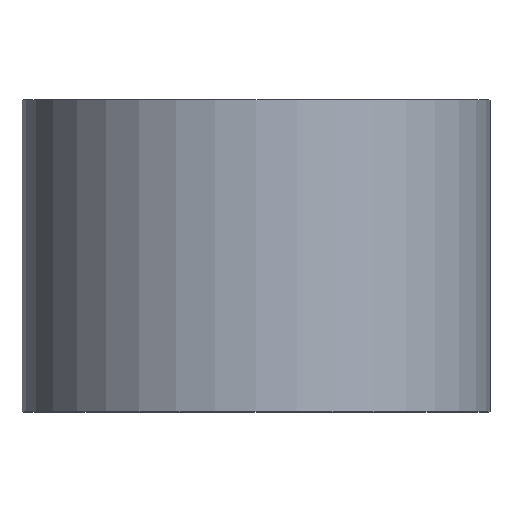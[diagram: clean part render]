
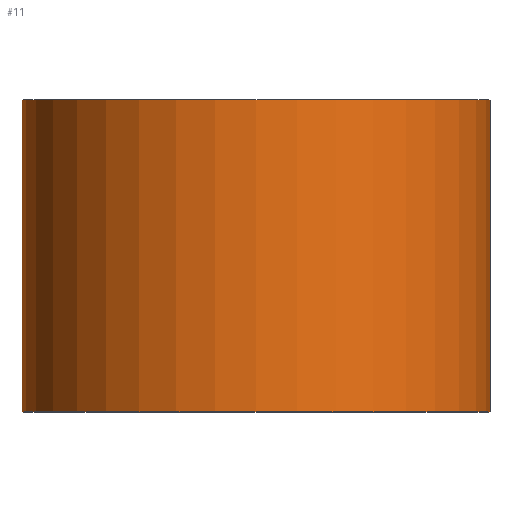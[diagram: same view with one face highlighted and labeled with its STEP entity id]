
A CAD part, top view. The second image highlights one B-rep face of the part: STEP entity #11.
In plain terms, the highlighted cylindrical face has radius 15 mm (diameter 30 mm), a partial arc.
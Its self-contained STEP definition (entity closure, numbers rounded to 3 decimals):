
#2 = CARTESIAN_POINT ( 'NONE',  ( 15., 0., 0. ) ) ;
#11 = ADVANCED_FACE ( 'NONE', ( #94 ), #269, .T. ) ;
#13 = CARTESIAN_POINT ( 'NONE',  ( 0., 0., 0. ) ) ;
#15 = CARTESIAN_POINT ( 'NONE',  ( 0., 0., 0. ) ) ;
#41 = ORIENTED_EDGE ( 'NONE', *, *, #191, .T. ) ;
#68 = CARTESIAN_POINT ( 'NONE',  ( -15., 0., 0. ) ) ;
#71 = VERTEX_POINT ( 'NONE', #68 ) ;
#74 = DIRECTION ( 'NONE',  ( -1., 0., 0. ) ) ;
#93 = DIRECTION ( 'NONE',  ( 0., 1., 0. ) ) ;
#94 = FACE_OUTER_BOUND ( 'NONE', #272, .T. ) ;
#108 = LINE ( 'NONE', #214, #219 ) ;
#116 = ORIENTED_EDGE ( 'NONE', *, *, #261, .T. ) ;
#121 = DIRECTION ( 'NONE',  ( 0., 1., 0. ) ) ;
#124 = VERTEX_POINT ( 'NONE', #127 ) ;
#127 = CARTESIAN_POINT ( 'NONE',  ( 15., 20., 0. ) ) ;
#133 = VERTEX_POINT ( 'NONE', #154 ) ;
#141 = DIRECTION ( 'NONE',  ( -1., 0., 0. ) ) ;
#143 = CARTESIAN_POINT ( 'NONE',  ( -15., 0., 0. ) ) ;
#154 = CARTESIAN_POINT ( 'NONE',  ( -15., 20., 0. ) ) ;
#169 = VERTEX_POINT ( 'NONE', #2 ) ;
#177 = ORIENTED_EDGE ( 'NONE', *, *, #242, .F. ) ;
#182 = AXIS2_PLACEMENT_3D ( 'NONE', #15, #270, #141 ) ;
#184 = VECTOR ( 'NONE', #236, 1000. ) ;
#191 = EDGE_CURVE ( 'NONE', #71, #169, #206, .T. ) ;
#203 = DIRECTION ( 'NONE',  ( 0., 1., 0. ) ) ;
#206 = CIRCLE ( 'NONE', #182, 15. ) ;
#214 = CARTESIAN_POINT ( 'NONE',  ( 15., 0., 0. ) ) ;
#219 = VECTOR ( 'NONE', #121, 1000. ) ;
#231 = CIRCLE ( 'NONE', #283, 15. ) ;
#236 = DIRECTION ( 'NONE',  ( 0., 1., 0. ) ) ;
#242 = EDGE_CURVE ( 'NONE', #133, #124, #231, .T. ) ;
#243 = DIRECTION ( 'NONE',  ( -1., 0., 0. ) ) ;
#251 = CARTESIAN_POINT ( 'NONE',  ( 0., 20., 0. ) ) ;
#253 = EDGE_CURVE ( 'NONE', #71, #133, #293, .T. ) ;
#261 = EDGE_CURVE ( 'NONE', #169, #124, #108, .T. ) ;
#269 = CYLINDRICAL_SURFACE ( 'NONE', #277, 15. ) ;
#270 = DIRECTION ( 'NONE',  ( 0., 1., 0. ) ) ;
#272 = EDGE_LOOP ( 'NONE', ( #41, #116, #177, #281 ) ) ;
#277 = AXIS2_PLACEMENT_3D ( 'NONE', #13, #203, #243 ) ;
#281 = ORIENTED_EDGE ( 'NONE', *, *, #253, .F. ) ;
#283 = AXIS2_PLACEMENT_3D ( 'NONE', #251, #93, #74 ) ;
#293 = LINE ( 'NONE', #143, #184 ) ;
